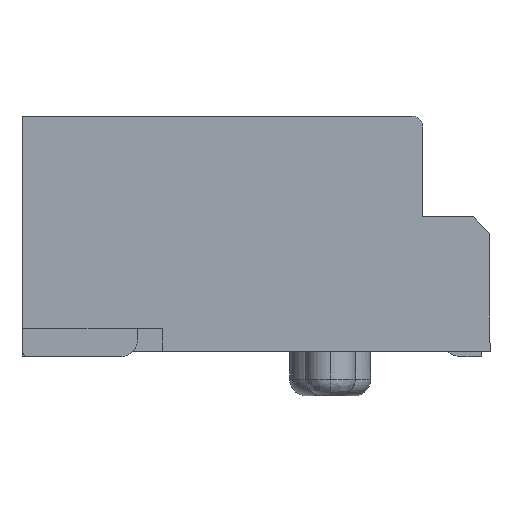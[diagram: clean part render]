
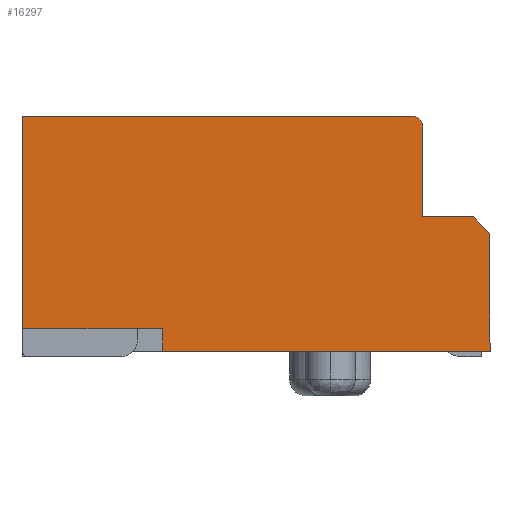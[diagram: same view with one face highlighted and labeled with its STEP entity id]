
A CAD part, left-side view. The second image highlights one B-rep face of the part: STEP entity #16297.
In plain terms, the highlighted planar face has unit normal (-1, 0, 0).
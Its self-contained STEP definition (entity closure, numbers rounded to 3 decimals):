
#966 = CARTESIAN_POINT ( 'NONE',  ( -10.935, -1.278, 0.703 ) ) ;
#1113 = DIRECTION ( 'NONE',  ( -1., 0., 0. ) ) ;
#1915 = VECTOR ( 'NONE', #85617, 1000. ) ;
#2361 = VECTOR ( 'NONE', #72113, 1000. ) ;
#4740 = VERTEX_POINT ( 'NONE', #41612 ) ;
#5278 = CARTESIAN_POINT ( 'NONE',  ( -10.935, -1.078, 2.503 ) ) ;
#7244 = EDGE_CURVE ( 'NONE', #92045, #103171, #18179, .T. ) ;
#7931 = VECTOR ( 'NONE', #28361, 1000. ) ;
#12358 = VECTOR ( 'NONE', #75600, 1000. ) ;
#12386 = DIRECTION ( 'NONE',  ( 0., -1., 0. ) ) ;
#14373 = VERTEX_POINT ( 'NONE', #100801 ) ;
#14514 = LINE ( 'NONE', #79626, #2361 ) ;
#16297 = ADVANCED_FACE ( 'NONE', ( #97166 ), #88153, .T. ) ;
#18135 = CARTESIAN_POINT ( 'NONE',  ( -10.935, -1.078, 2.303 ) ) ;
#18179 = CIRCLE ( 'NONE', #50580, 0.2 ) ;
#18780 = ORIENTED_EDGE ( 'NONE', *, *, #26108, .F. ) ;
#21946 = EDGE_CURVE ( 'NONE', #4740, #34173, #78098, .T. ) ;
#26108 = EDGE_CURVE ( 'NONE', #14373, #103171, #98503, .T. ) ;
#27815 = EDGE_CURVE ( 'NONE', #4740, #51413, #45405, .T. ) ;
#28361 = DIRECTION ( 'NONE',  ( 0., -1., 0. ) ) ;
#31201 = ORIENTED_EDGE ( 'NONE', *, *, #7244, .T. ) ;
#31496 = EDGE_LOOP ( 'NONE', ( #58540, #77255, #31201, #18780, #46391, #65766, #55331, #96805, #103531, #92349 ) ) ;
#32109 = AXIS2_PLACEMENT_3D ( 'NONE', #105178, #69651, #93636 ) ;
#32813 = EDGE_CURVE ( 'NONE', #51413, #85158, #75747, .T. ) ;
#34173 = VERTEX_POINT ( 'NONE', #43167 ) ;
#38122 = DIRECTION ( 'NONE',  ( 0., 0., 1. ) ) ;
#41267 = CARTESIAN_POINT ( 'NONE',  ( -10.935, 5.872, -1.297 ) ) ;
#41612 = CARTESIAN_POINT ( 'NONE',  ( -10.935, 3.372, -1.697 ) ) ;
#43167 = CARTESIAN_POINT ( 'NONE',  ( -10.935, 3.372, -1.297 ) ) ;
#44299 = LINE ( 'NONE', #84274, #54989 ) ;
#45091 = CARTESIAN_POINT ( 'NONE',  ( -10.935, 3.372, -1.697 ) ) ;
#45405 = LINE ( 'NONE', #77347, #7931 ) ;
#46391 = ORIENTED_EDGE ( 'NONE', *, *, #67015, .F. ) ;
#50580 = AXIS2_PLACEMENT_3D ( 'NONE', #18135, #1113, #83187 ) ;
#51131 = CARTESIAN_POINT ( 'NONE',  ( -10.935, 5.872, 2.503 ) ) ;
#51413 = VERTEX_POINT ( 'NONE', #80433 ) ;
#51429 = CARTESIAN_POINT ( 'NONE',  ( -10.935, 5.872, -1.297 ) ) ;
#51791 = DIRECTION ( 'NONE',  ( 0., 0., -1. ) ) ;
#51799 = CARTESIAN_POINT ( 'NONE',  ( -10.935, -2.478, -1.697 ) ) ;
#52632 = VECTOR ( 'NONE', #81746, 1000. ) ;
#53148 = CARTESIAN_POINT ( 'NONE',  ( -10.935, -2.478, 0.403 ) ) ;
#54989 = VECTOR ( 'NONE', #51791, 1000. ) ;
#55331 = ORIENTED_EDGE ( 'NONE', *, *, #21946, .F. ) ;
#56513 = VERTEX_POINT ( 'NONE', #102234 ) ;
#57300 = EDGE_CURVE ( 'NONE', #85158, #56513, #86678, .T. ) ;
#58540 = ORIENTED_EDGE ( 'NONE', *, *, #77662, .T. ) ;
#60274 = DIRECTION ( 'NONE',  ( 0., 0., 1. ) ) ;
#62935 = EDGE_CURVE ( 'NONE', #92045, #97156, #44299, .T. ) ;
#65766 = ORIENTED_EDGE ( 'NONE', *, *, #104594, .T. ) ;
#66765 = LINE ( 'NONE', #41267, #52632 ) ;
#67015 = EDGE_CURVE ( 'NONE', #90792, #14373, #66765, .T. ) ;
#69434 = LINE ( 'NONE', #92360, #100843 ) ;
#69651 = DIRECTION ( 'NONE',  ( -1., 0., 0. ) ) ;
#69883 = CARTESIAN_POINT ( 'NONE',  ( -10.935, -1.278, 2.303 ) ) ;
#70245 = CARTESIAN_POINT ( 'NONE',  ( -10.935, -2.478, 0.403 ) ) ;
#72113 = DIRECTION ( 'NONE',  ( 0., 1., 0. ) ) ;
#74291 = VECTOR ( 'NONE', #38122, 1000. ) ;
#75600 = DIRECTION ( 'NONE',  ( 0., -1., 0. ) ) ;
#75747 = LINE ( 'NONE', #51799, #78987 ) ;
#77255 = ORIENTED_EDGE ( 'NONE', *, *, #62935, .F. ) ;
#77347 = CARTESIAN_POINT ( 'NONE',  ( -10.935, 3.372, -1.697 ) ) ;
#77662 = EDGE_CURVE ( 'NONE', #56513, #97156, #14514, .T. ) ;
#78098 = LINE ( 'NONE', #45091, #74291 ) ;
#78987 = VECTOR ( 'NONE', #60274, 1000. ) ;
#79626 = CARTESIAN_POINT ( 'NONE',  ( -10.935, -2.178, 0.703 ) ) ;
#80433 = CARTESIAN_POINT ( 'NONE',  ( -10.935, -2.478, -1.697 ) ) ;
#81746 = DIRECTION ( 'NONE',  ( 0., 0., 1. ) ) ;
#83187 = DIRECTION ( 'NONE',  ( 0., -1., 0. ) ) ;
#84274 = CARTESIAN_POINT ( 'NONE',  ( -10.935, -1.278, 2.303 ) ) ;
#85158 = VERTEX_POINT ( 'NONE', #70245 ) ;
#85617 = DIRECTION ( 'NONE',  ( 0., 0.707, 0.707 ) ) ;
#86678 = LINE ( 'NONE', #53148, #1915 ) ;
#88153 = PLANE ( 'NONE',  #32109 ) ;
#90792 = VERTEX_POINT ( 'NONE', #51429 ) ;
#92045 = VERTEX_POINT ( 'NONE', #69883 ) ;
#92349 = ORIENTED_EDGE ( 'NONE', *, *, #57300, .T. ) ;
#92360 = CARTESIAN_POINT ( 'NONE',  ( -10.935, 5.872, -1.297 ) ) ;
#93636 = DIRECTION ( 'NONE',  ( 0., 0., 1. ) ) ;
#96805 = ORIENTED_EDGE ( 'NONE', *, *, #27815, .T. ) ;
#97156 = VERTEX_POINT ( 'NONE', #966 ) ;
#97166 = FACE_OUTER_BOUND ( 'NONE', #31496, .T. ) ;
#98503 = LINE ( 'NONE', #51131, #12358 ) ;
#100801 = CARTESIAN_POINT ( 'NONE',  ( -10.935, 5.872, 2.503 ) ) ;
#100843 = VECTOR ( 'NONE', #12386, 1000. ) ;
#102234 = CARTESIAN_POINT ( 'NONE',  ( -10.935, -2.178, 0.703 ) ) ;
#103171 = VERTEX_POINT ( 'NONE', #5278 ) ;
#103531 = ORIENTED_EDGE ( 'NONE', *, *, #32813, .T. ) ;
#104594 = EDGE_CURVE ( 'NONE', #90792, #34173, #69434, .T. ) ;
#105178 = CARTESIAN_POINT ( 'NONE',  ( -10.935, 5.872, -1.697 ) ) ;
